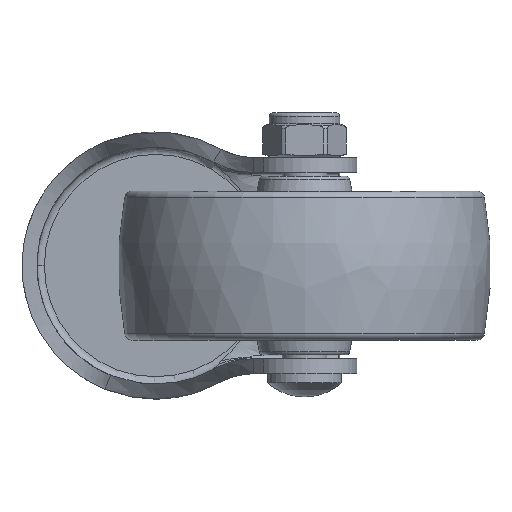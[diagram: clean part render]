
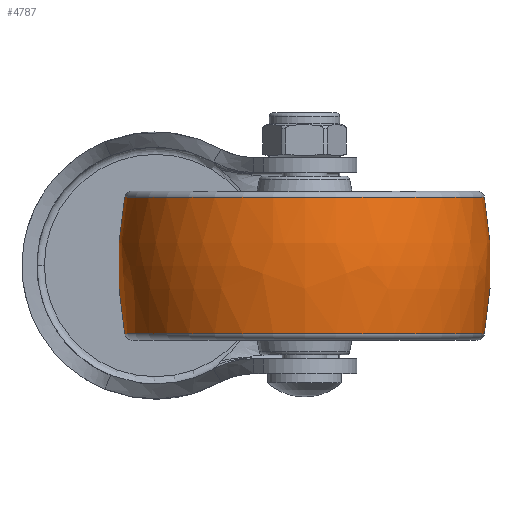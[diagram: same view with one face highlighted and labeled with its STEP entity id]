
A CAD part, front view. The second image highlights one B-rep face of the part: STEP entity #4787.
In plain terms, the highlighted free-form (B-spline) face has degree [3, 3] with [7, 4] control points.
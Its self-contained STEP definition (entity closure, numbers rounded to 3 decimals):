
#4413=CARTESIAN_POINT('',(0.,-25.,0.));
#4414=DIRECTION('',(0.,0.,1.));
#4415=DIRECTION('',(0.184,0.983,0.));
#4416=AXIS2_PLACEMENT_3D('',#4413,#4414,#4415);
#4418=CARTESIAN_POINT('',(0.,25.,0.));
#4419=DIRECTION('',(0.,0.,-1.));
#4420=DIRECTION('',(0.184,-0.983,0.));
#4421=AXIS2_PLACEMENT_3D('',#4418,#4419,#4420);
#4423=CARTESIAN_POINT('',(9.184,0.,0.));
#4424=DIRECTION('',(-1.,0.,0.));
#4425=DIRECTION('',(0.,1.,0.));
#4426=AXIS2_PLACEMENT_3D('',#4423,#4424,#4425);
#4448=CARTESIAN_POINT('',(-9.184,0.,0.));
#4449=DIRECTION('',(-1.,0.,0.));
#4450=DIRECTION('',(0.,1.,0.));
#4451=AXIS2_PLACEMENT_3D('',#4448,#4449,#4450);
#4588=CARTESIAN_POINT('',(9.184,24.149,0.));
#4590=VERTEX_POINT('',#4588);
#4591=CARTESIAN_POINT('',(-9.184,24.149,0.));
#4592=VERTEX_POINT('',#4591);
#4596=CARTESIAN_POINT('',(9.184,-24.149,0.));
#4598=VERTEX_POINT('',#4596);
#4599=CARTESIAN_POINT('',(-9.184,-24.149,0.));
#4600=VERTEX_POINT('',#4599);
#4749=CARTESIAN_POINT('',(-9.547,-24.033,
1.512));
#4750=CARTESIAN_POINT('',(-3.222,-25.26,
1.589));
#4751=CARTESIAN_POINT('',(3.222,-25.26,1.589));
#4752=CARTESIAN_POINT('',(9.547,-24.033,1.512));
#4753=CARTESIAN_POINT('',(-9.547,-24.963,
-13.278));
#4754=CARTESIAN_POINT('',(-3.222,-26.238,
-13.956));
#4755=CARTESIAN_POINT('',(3.222,-26.238,
-13.956));
#4756=CARTESIAN_POINT('',(9.547,-24.963,
-13.278));
#4757=CARTESIAN_POINT('',(-9.547,-14.819,
-24.08));
#4758=CARTESIAN_POINT('',(-3.222,-15.576,
-25.31));
#4759=CARTESIAN_POINT('',(3.222,-15.576,
-25.31));
#4760=CARTESIAN_POINT('',(9.547,-14.819,
-24.08));
#4761=CARTESIAN_POINT('',(-9.547,0.,-24.08));
#4762=CARTESIAN_POINT('',(-3.222,0.,-25.31));
#4763=CARTESIAN_POINT('',(3.222,0.,-25.31));
#4764=CARTESIAN_POINT('',(9.547,0.,-24.08));
#4765=CARTESIAN_POINT('',(-9.547,14.819,
-24.08));
#4766=CARTESIAN_POINT('',(-3.222,15.576,
-25.31));
#4767=CARTESIAN_POINT('',(3.222,15.576,-25.31));
#4768=CARTESIAN_POINT('',(9.547,14.819,-24.08));
#4769=CARTESIAN_POINT('',(-9.547,24.963,
-13.278));
#4770=CARTESIAN_POINT('',(-3.222,26.238,
-13.956));
#4771=CARTESIAN_POINT('',(3.222,26.238,-13.956));
#4772=CARTESIAN_POINT('',(9.547,24.963,-13.278));
#4773=CARTESIAN_POINT('',(-9.547,24.033,1.512));
#4774=CARTESIAN_POINT('',(-3.222,25.26,1.589));
#4775=CARTESIAN_POINT('',(3.222,25.26,1.589));
#4776=CARTESIAN_POINT('',(9.547,24.033,1.512));
#4777=(BOUNDED_SURFACE()B_SPLINE_SURFACE(3,3,((#4749,#4750,#4751,#4752),(#4753,
#4754,#4755,#4756),(#4757,#4758,#4759,#4760),(#4761,#4762,#4763,#4764),(#4765,
#4766,#4767,#4768),(#4769,#4770,#4771,#4772),(#4773,#4774,#4775,#4776)),
.UNSPECIFIED.,.F.,.F.,.F.)B_SPLINE_SURFACE_WITH_KNOTS((4,3,4),(4,4),(0.,1.,
2.),(0.,1.),.UNSPECIFIED.)GEOMETRIC_REPRESENTATION_ITEM()RATIONAL_B_SPLINE_SURFACE(((1.198,1.184,1.184,1.198),(
0.946,0.935,0.935,0.946),(
0.946,0.935,0.935,0.946),(
1.198,1.184,1.184,1.198),(
0.946,0.935,0.935,0.946),(
0.946,0.935,0.935,0.946),(
1.198,1.184,1.184,1.198)))REPRESENTATION_ITEM('')SURFACE());
#4779=ORIENTED_EDGE('',*,*,#4778,.T.);
#4781=ORIENTED_EDGE('',*,*,#4780,.T.);
#4783=ORIENTED_EDGE('',*,*,#4782,.F.);
#4784=ORIENTED_EDGE('',*,*,#4742,.F.);
#4785=EDGE_LOOP('',(#4779,#4781,#4783,#4784));
#4786=FACE_OUTER_BOUND('',#4785,.F.);
#4417=CIRCLE('',#4416,50.);
#4422=CIRCLE('',#4421,50.);
#4427=CIRCLE('',#4426,24.149);
#4452=CIRCLE('',#4451,24.149);
#4742=EDGE_CURVE('',#4590,#4598,#4427,.T.);
#4778=EDGE_CURVE('',#4590,#4592,#4417,.T.);
#4780=EDGE_CURVE('',#4592,#4600,#4452,.T.);
#4782=EDGE_CURVE('',#4598,#4600,#4422,.T.);
#4787=ADVANCED_FACE('',(#4786),#4777,.T.);
